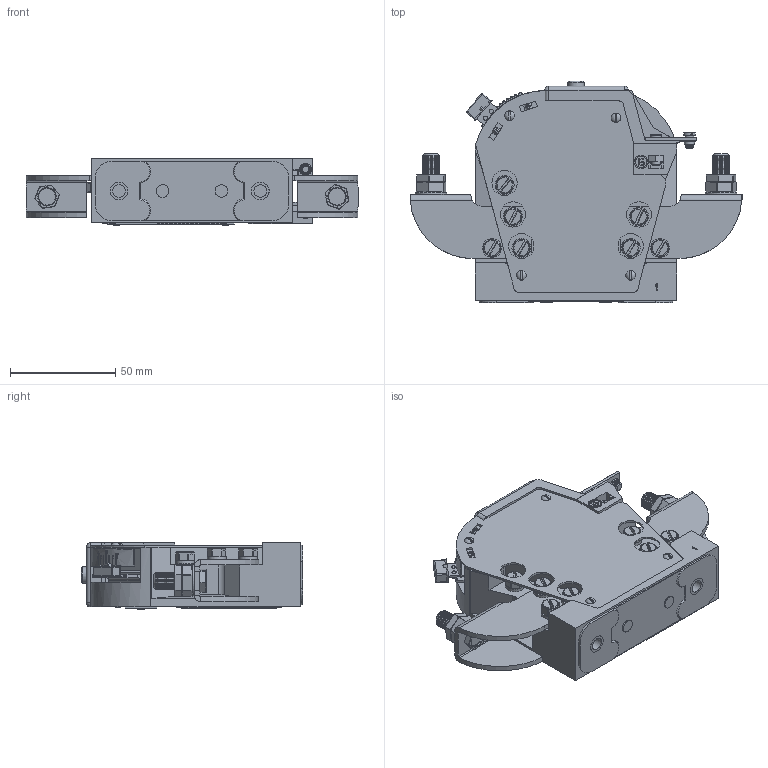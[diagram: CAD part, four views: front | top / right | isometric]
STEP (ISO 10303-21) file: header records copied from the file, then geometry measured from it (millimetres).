
FILE_DESCRIPTION(('STEP AP214'), '1');
FILE_NAME('ÒÐÒ-142Ð Ó2 ðåëå ÑÁ', '', ('UNSPECIFIED'), ('UNSPECIFIED'), 'ASCON STEP Converter 1.3', 'ASCON Math Kernel', '');
FILE_SCHEMA(('AUTOMOTIVE_DESIGN { 1 0 10303 214 3 1 1}'));
Length unit declared in the file: millimetre
Products named in the file (1): ÒÐÒ-142Ð Ó2 ðåëå ÑÁ
Bounding box: 158 x 105.6 x 32.3 mm (x, y, z)
Volume: 224823 mm3; surface area: 74826.9 mm2
Topology: 5 solids, 10 shells, 3247 faces, 8137 edges, 5023 vertices
Faces by surface type: plane 1605, cylinder 713, bspline 533, torus 147, cone 124, sphere 116, extrusion 9
Full cylindrical faces by diameter (mm): 1.36 x2, 2 x4, 2.4 x2, 2.5 x2, 2.7 x1, 2.9 x2, 3 x1, 3.1 x7, 3.2 x11, 4 x4, 4.1 x18, 4.2 x2, 4.8 x2, 4.9 x1, 5 x2, 5.4 x11, 5.5 x17, 6 x6, 6.4 x4, 6.5 x7, 8 x51, 8.4 x2, 8.5 x2, 8.505 x4, 9 x8, 10 x7, 12 x5, 15 x2
Entity records: 189680 total; most frequent: CARTESIAN_POINT 92574, ORIENTED_EDGE 15400, DIRECTION 12636, EDGE_CURVE 7700, VERTEX_POINT 5023, VECTOR 4294, LINE 4285, AXIS2_PLACEMENT_3D 4171
